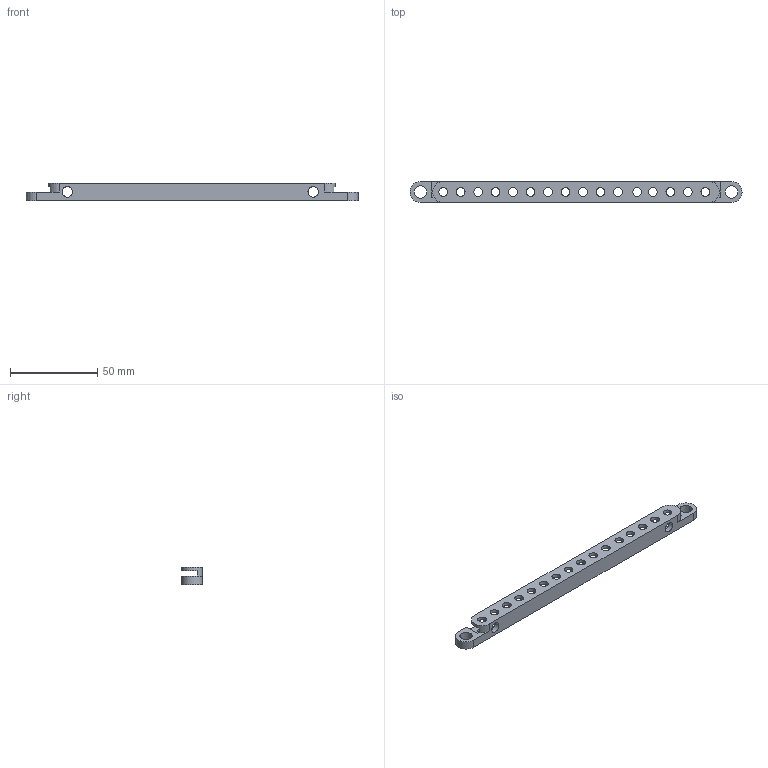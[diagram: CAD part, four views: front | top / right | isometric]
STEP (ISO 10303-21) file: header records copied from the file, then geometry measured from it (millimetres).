
FILE_DESCRIPTION(('STEP AP203'), '1');
FILE_NAME('strip', '', ('UNSPECIFIED'), ('UNSPECIFIED'), 'ASCON STEP Converter 1.3', 'ASCON Math Kernel', '');
FILE_SCHEMA(('CONFIG_CONTROL_DESIGN'));
Length unit declared in the file: millimetre
Bounding box: 190 x 12 x 10 mm (x, y, z)
Volume: 10287.9 mm3; surface area: 10917.9 mm2
Topology: 1 solids, 1 shells, 54 faces, 158 edges, 104 vertices
Faces by surface type: cylinder 40, plane 14
Full cylindrical faces by diameter (mm): 5 x32, 6 x2, 7 x2
Entity records: 2276 total; most frequent: DIRECTION 318, CARTESIAN_POINT 281, ORIENTED_EDGE 244, EDGE_LOOP 160, AXIS2_PLACEMENT_3D 141, EDGE_CURVE 122, VERTEX_POINT 104, FACE_BOUND 90
